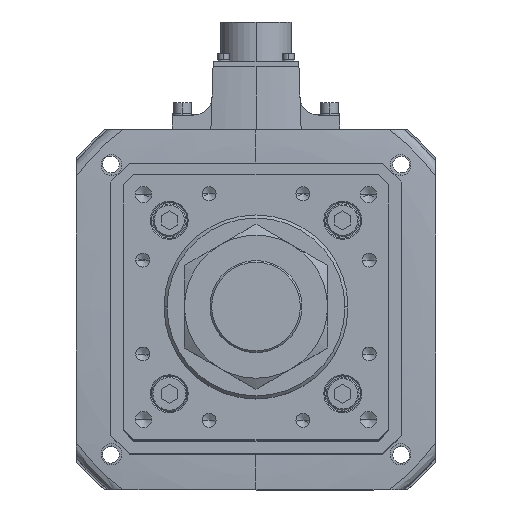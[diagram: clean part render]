
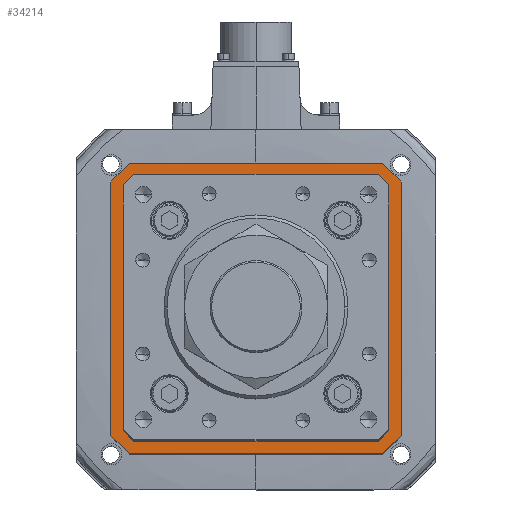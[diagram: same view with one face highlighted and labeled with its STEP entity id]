
A CAD part, top view. The second image highlights one B-rep face of the part: STEP entity #34214.
In plain terms, the highlighted planar face has unit normal (0, 0, 1).
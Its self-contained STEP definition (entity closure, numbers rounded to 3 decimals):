
#334 = CARTESIAN_POINT ( 'NONE',  ( -62., -71., -142. ) ) ;
#503 = LINE ( 'NONE', #4839, #41835 ) ;
#1012 = CARTESIAN_POINT ( 'NONE',  ( 71., 62., -142. ) ) ;
#1091 = CARTESIAN_POINT ( 'NONE',  ( 71., 62., -142. ) ) ;
#1514 = ORIENTED_EDGE ( 'NONE', *, *, #52206, .T. ) ;
#1586 = VECTOR ( 'NONE', #47410, 1000. ) ;
#1627 = DIRECTION ( 'NONE',  ( 0.707, -0.707, 0. ) ) ;
#1787 = CARTESIAN_POINT ( 'NONE',  ( 0., 0., -142. ) ) ;
#1794 = VECTOR ( 'NONE', #9458, 1000. ) ;
#2183 = LINE ( 'NONE', #9985, #4848 ) ;
#2323 = ORIENTED_EDGE ( 'NONE', *, *, #50745, .F. ) ;
#2928 = CARTESIAN_POINT ( 'NONE',  ( 58.793, 63., -142. ) ) ;
#2953 = LINE ( 'NONE', #1091, #48283 ) ;
#3254 = VERTEX_POINT ( 'NONE', #9866 ) ;
#3820 = LINE ( 'NONE', #42219, #47807 ) ;
#4447 = DIRECTION ( 'NONE',  ( -0.707, 0.707, 0. ) ) ;
#4839 = CARTESIAN_POINT ( 'NONE',  ( 0., -63., -142. ) ) ;
#4848 = VECTOR ( 'NONE', #52507, 1000. ) ;
#4950 = VERTEX_POINT ( 'NONE', #38576 ) ;
#5016 = LINE ( 'NONE', #7466, #16322 ) ;
#6085 = LINE ( 'NONE', #18891, #21393 ) ;
#6263 = CARTESIAN_POINT ( 'NONE',  ( 71., -62., -142. ) ) ;
#6818 = EDGE_CURVE ( 'NONE', #26049, #11357, #3820, .T. ) ;
#6848 = AXIS2_PLACEMENT_3D ( 'NONE', #1787, #43931, #43743 ) ;
#7466 = CARTESIAN_POINT ( 'NONE',  ( 0., 63., -142. ) ) ;
#7748 = VECTOR ( 'NONE', #35555, 1000. ) ;
#8017 = EDGE_CURVE ( 'NONE', #18332, #37229, #19472, .T. ) ;
#8194 = LINE ( 'NONE', #19925, #42222 ) ;
#8598 = FACE_BOUND ( 'NONE', #17994, .T. ) ;
#8900 = EDGE_CURVE ( 'NONE', #50855, #50611, #12796, .T. ) ;
#9279 = CARTESIAN_POINT ( 'NONE',  ( -60.896, -60.896, -142. ) ) ;
#9458 = DIRECTION ( 'NONE',  ( -0.707, 0.707, 0. ) ) ;
#9794 = PLANE ( 'NONE',  #6848 ) ;
#9866 = CARTESIAN_POINT ( 'NONE',  ( -58.793, -63., -142. ) ) ;
#9985 = CARTESIAN_POINT ( 'NONE',  ( -62., 71., -142. ) ) ;
#10600 = VECTOR ( 'NONE', #55109, 1000. ) ;
#10735 = VERTEX_POINT ( 'NONE', #22560 ) ;
#11357 = VERTEX_POINT ( 'NONE', #40522 ) ;
#11772 = LINE ( 'NONE', #9279, #1794 ) ;
#11863 = LINE ( 'NONE', #36108, #13215 ) ;
#12109 = EDGE_CURVE ( 'NONE', #3254, #50358, #11772, .T. ) ;
#12409 = LINE ( 'NONE', #48809, #7748 ) ;
#12796 = LINE ( 'NONE', #334, #44153 ) ;
#13021 = CARTESIAN_POINT ( 'NONE',  ( -60.896, 60.896, -142. ) ) ;
#13215 = VECTOR ( 'NONE', #49197, 1000. ) ;
#13224 = DIRECTION ( 'NONE',  ( -1., 0., 0. ) ) ;
#13656 = VECTOR ( 'NONE', #14210, 1000. ) ;
#13829 = VERTEX_POINT ( 'NONE', #18812 ) ;
#13933 = CARTESIAN_POINT ( 'NONE',  ( 71., -62., -142. ) ) ;
#14149 = VECTOR ( 'NONE', #27119, 1000. ) ;
#14210 = DIRECTION ( 'NONE',  ( -1., 0., 0. ) ) ;
#14857 = CARTESIAN_POINT ( 'NONE',  ( 63., 58.793, -142. ) ) ;
#14957 = LINE ( 'NONE', #39755, #13656 ) ;
#14987 = ORIENTED_EDGE ( 'NONE', *, *, #31499, .T. ) ;
#15402 = EDGE_CURVE ( 'NONE', #50358, #13829, #8194, .T. ) ;
#15833 = DIRECTION ( 'NONE',  ( 1., 0., 0. ) ) ;
#16162 = CARTESIAN_POINT ( 'NONE',  ( 62., 71., -142. ) ) ;
#16322 = VECTOR ( 'NONE', #15833, 1000. ) ;
#16465 = ORIENTED_EDGE ( 'NONE', *, *, #29702, .F. ) ;
#17501 = ORIENTED_EDGE ( 'NONE', *, *, #28012, .F. ) ;
#17994 = EDGE_LOOP ( 'NONE', ( #45967, #1514, #36474, #28093, #54027, #46328, #25936, #14987 ) ) ;
#18332 = VERTEX_POINT ( 'NONE', #13933 ) ;
#18401 = EDGE_CURVE ( 'NONE', #45640, #20332, #2953, .T. ) ;
#18812 = CARTESIAN_POINT ( 'NONE',  ( -63., 58.793, -142. ) ) ;
#18891 = CARTESIAN_POINT ( 'NONE',  ( 60.896, 60.896, -142. ) ) ;
#19472 = LINE ( 'NONE', #6263, #14149 ) ;
#19925 = CARTESIAN_POINT ( 'NONE',  ( -63., 0., -142. ) ) ;
#19926 = LINE ( 'NONE', #25034, #10600 ) ;
#20065 = CARTESIAN_POINT ( 'NONE',  ( -62., -71., -142. ) ) ;
#20332 = VERTEX_POINT ( 'NONE', #30083 ) ;
#20551 = EDGE_CURVE ( 'NONE', #13829, #4950, #40817, .T. ) ;
#20573 = EDGE_CURVE ( 'NONE', #42210, #47963, #2183, .T. ) ;
#20678 = CARTESIAN_POINT ( 'NONE',  ( -62., 71., -142. ) ) ;
#21393 = VECTOR ( 'NONE', #52882, 1000. ) ;
#22560 = CARTESIAN_POINT ( 'NONE',  ( 58.793, -63., -142. ) ) ;
#22680 = CARTESIAN_POINT ( 'NONE',  ( -71., -62., -142. ) ) ;
#25034 = CARTESIAN_POINT ( 'NONE',  ( 62., 71., -142. ) ) ;
#25936 = ORIENTED_EDGE ( 'NONE', *, *, #37829, .T. ) ;
#26049 = VERTEX_POINT ( 'NONE', #14857 ) ;
#27119 = DIRECTION ( 'NONE',  ( -0.707, -0.707, 0. ) ) ;
#27809 = CARTESIAN_POINT ( 'NONE',  ( -63., -58.793, -142. ) ) ;
#28012 = EDGE_CURVE ( 'NONE', #37229, #50855, #14957, .T. ) ;
#28093 = ORIENTED_EDGE ( 'NONE', *, *, #12109, .T. ) ;
#29441 = ORIENTED_EDGE ( 'NONE', *, *, #20573, .F. ) ;
#29702 = EDGE_CURVE ( 'NONE', #20332, #18332, #46241, .T. ) ;
#30083 = CARTESIAN_POINT ( 'NONE',  ( 71., 62., -142. ) ) ;
#31499 = EDGE_CURVE ( 'NONE', #33853, #26049, #6085, .T. ) ;
#32140 = VECTOR ( 'NONE', #43092, 1000. ) ;
#33853 = VERTEX_POINT ( 'NONE', #2928 ) ;
#34214 = ADVANCED_FACE ( 'NONE', ( #8598, #53970 ), #9794, .T. ) ;
#34614 = CARTESIAN_POINT ( 'NONE',  ( 62., -71., -142. ) ) ;
#35555 = DIRECTION ( 'NONE',  ( -0.707, -0.707, 0. ) ) ;
#36108 = CARTESIAN_POINT ( 'NONE',  ( -71., 62., -142. ) ) ;
#36474 = ORIENTED_EDGE ( 'NONE', *, *, #40348, .T. ) ;
#37229 = VERTEX_POINT ( 'NONE', #34614 ) ;
#37829 = EDGE_CURVE ( 'NONE', #4950, #33853, #5016, .T. ) ;
#38576 = CARTESIAN_POINT ( 'NONE',  ( -58.793, 63., -142. ) ) ;
#39564 = ORIENTED_EDGE ( 'NONE', *, *, #8900, .F. ) ;
#39755 = CARTESIAN_POINT ( 'NONE',  ( 62., -71., -142. ) ) ;
#40348 = EDGE_CURVE ( 'NONE', #10735, #3254, #503, .T. ) ;
#40522 = CARTESIAN_POINT ( 'NONE',  ( 63., -58.793, -142. ) ) ;
#40817 = LINE ( 'NONE', #13021, #32140 ) ;
#41835 = VECTOR ( 'NONE', #13224, 1000. ) ;
#41903 = ORIENTED_EDGE ( 'NONE', *, *, #46221, .F. ) ;
#42210 = VERTEX_POINT ( 'NONE', #50445 ) ;
#42219 = CARTESIAN_POINT ( 'NONE',  ( 63., 0., -142. ) ) ;
#42222 = VECTOR ( 'NONE', #49778, 1000. ) ;
#43092 = DIRECTION ( 'NONE',  ( 0.707, 0.707, 0. ) ) ;
#43743 = DIRECTION ( 'NONE',  ( 1., 0., 0. ) ) ;
#43796 = ORIENTED_EDGE ( 'NONE', *, *, #8017, .F. ) ;
#43931 = DIRECTION ( 'NONE',  ( 0., 0., 1. ) ) ;
#44153 = VECTOR ( 'NONE', #4447, 1000. ) ;
#45640 = VERTEX_POINT ( 'NONE', #16162 ) ;
#45967 = ORIENTED_EDGE ( 'NONE', *, *, #6818, .T. ) ;
#46137 = DIRECTION ( 'NONE',  ( 0., -1., 0. ) ) ;
#46221 = EDGE_CURVE ( 'NONE', #47963, #45640, #19926, .T. ) ;
#46241 = LINE ( 'NONE', #1012, #1586 ) ;
#46328 = ORIENTED_EDGE ( 'NONE', *, *, #20551, .T. ) ;
#47410 = DIRECTION ( 'NONE',  ( 0., -1., 0. ) ) ;
#47807 = VECTOR ( 'NONE', #46137, 1000. ) ;
#47963 = VERTEX_POINT ( 'NONE', #20678 ) ;
#48283 = VECTOR ( 'NONE', #1627, 1000. ) ;
#48809 = CARTESIAN_POINT ( 'NONE',  ( 60.896, -60.896, -142. ) ) ;
#49197 = DIRECTION ( 'NONE',  ( 0., 1., 0. ) ) ;
#49778 = DIRECTION ( 'NONE',  ( 0., 1., 0. ) ) ;
#50358 = VERTEX_POINT ( 'NONE', #27809 ) ;
#50445 = CARTESIAN_POINT ( 'NONE',  ( -71., 62., -142. ) ) ;
#50611 = VERTEX_POINT ( 'NONE', #22680 ) ;
#50745 = EDGE_CURVE ( 'NONE', #50611, #42210, #11863, .T. ) ;
#50855 = VERTEX_POINT ( 'NONE', #20065 ) ;
#52206 = EDGE_CURVE ( 'NONE', #11357, #10735, #12409, .T. ) ;
#52507 = DIRECTION ( 'NONE',  ( 0.707, 0.707, 0. ) ) ;
#52882 = DIRECTION ( 'NONE',  ( 0.707, -0.707, 0. ) ) ;
#53132 = ORIENTED_EDGE ( 'NONE', *, *, #18401, .F. ) ;
#53970 = FACE_OUTER_BOUND ( 'NONE', #54722, .T. ) ;
#54027 = ORIENTED_EDGE ( 'NONE', *, *, #15402, .T. ) ;
#54722 = EDGE_LOOP ( 'NONE', ( #41903, #29441, #2323, #39564, #17501, #43796, #16465, #53132 ) ) ;
#55109 = DIRECTION ( 'NONE',  ( 1., 0., 0. ) ) ;
